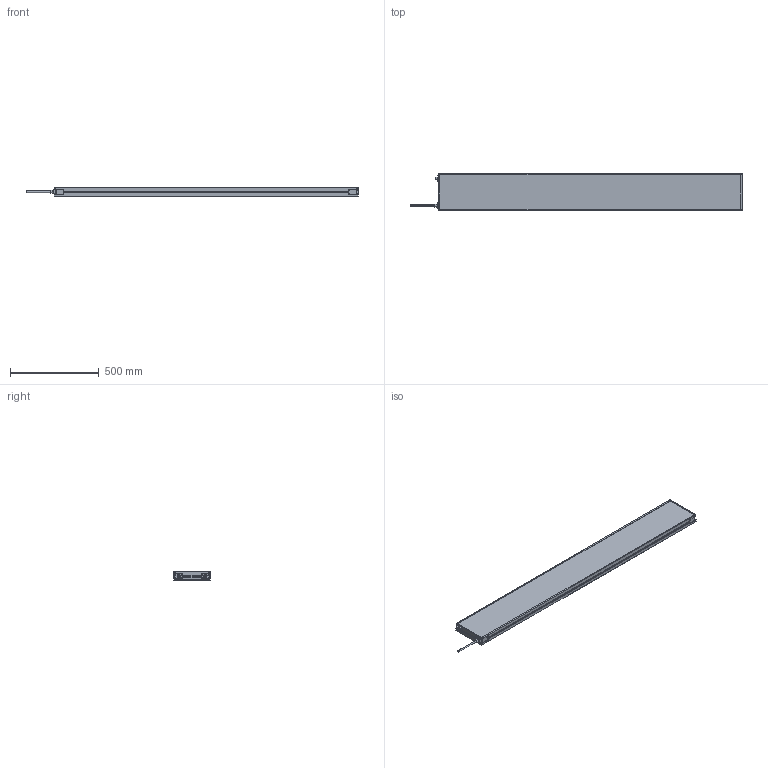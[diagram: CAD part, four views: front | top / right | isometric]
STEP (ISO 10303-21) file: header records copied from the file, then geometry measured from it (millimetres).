
FILE_DESCRIPTION (( 'STEP AP214' ), '1' );
FILE_NAME ('MBACK-xxxx-xxx-M1A2_CLIENT200x1700.STEP', '2022-04-01T11:30:24', ( '' ), ( '' ), 'SwSTEP 2.0', 'SolidWorks 2020', '' );
FILE_SCHEMA (( 'AUTOMOTIVE_DESIGN' ));
Length unit declared in the file: millimetre
Products named in the file (1): MBACK-xxxx-xxx-M1A2_CLIENT200x1700
Bounding box: 1867.4 x 208 x 45.5 mm (x, y, z)
Volume: 14730333.4 mm3; surface area: 971027.5 mm2
Topology: 1 solids, 1 shells, 470 faces, 1210 edges, 804 vertices
Faces by surface type: plane 265, cylinder 117, bspline 80, cone 8
Entity records: 18046 total; most frequent: CARTESIAN_POINT 6837, ORIENTED_EDGE 2420, DIRECTION 2082, EDGE_CURVE 1210, VERTEX_POINT 804, VECTOR 800, LINE 800, AXIS2_PLACEMENT_3D 641
